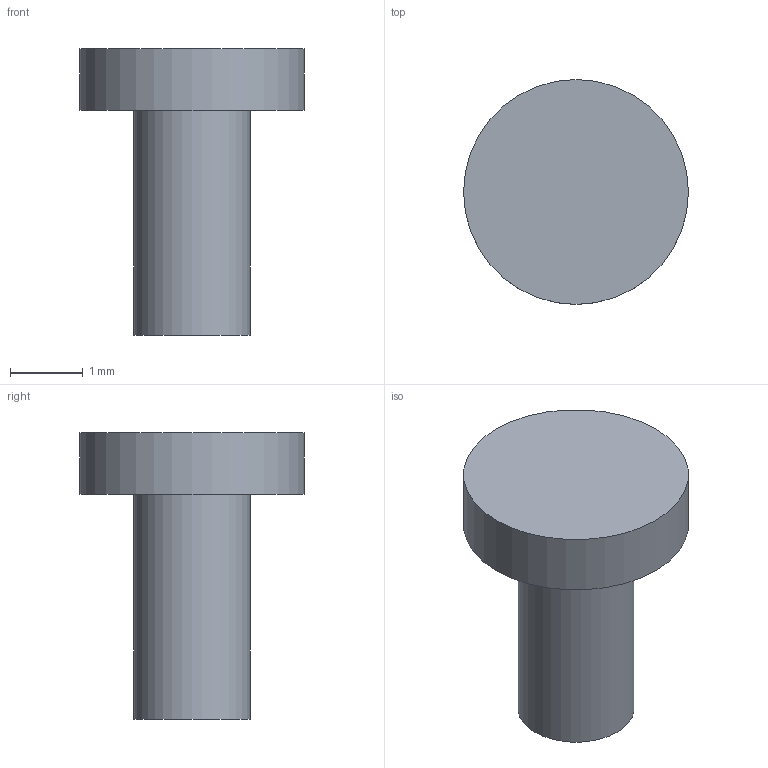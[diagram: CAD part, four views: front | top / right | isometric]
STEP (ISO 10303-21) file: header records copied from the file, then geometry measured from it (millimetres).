
FILE_DESCRIPTION(('Open CASCADE Model'),'2;1');
FILE_NAME('pcb_screw_2','2026-11-19T17:25:15',('Author'),('Open CASCADE' ),'Open CASCADE STEP processor 7.8','build123d','Unknown');
FILE_SCHEMA(('AUTOMOTIVE_DESIGN { 1 0 10303 214 1 1 1 1 }'));
Length unit declared in the file: millimetre
Products named in the file (1): pcb_screw_2
Bounding box: 3.1 x 3.1 x 3.95 mm (x, y, z)
Volume: 12.6 mm3; surface area: 39 mm2
Topology: 1 solids, 1 shells, 5 faces, 6 edges, 4 vertices
Faces by surface type: plane 3, cylinder 2
Full cylindrical faces by diameter (mm): 1.6 x1, 3.1 x1
Entity records: 201 total; most frequent: DIRECTION 34, CARTESIAN_POINT 28, ORIENTED_EDGE 12, PCURVE 12, DEFINITIONAL_REPRESENTATION 12, AXIS2_PLACEMENT_3D 10, LINE 10, VECTOR 10
